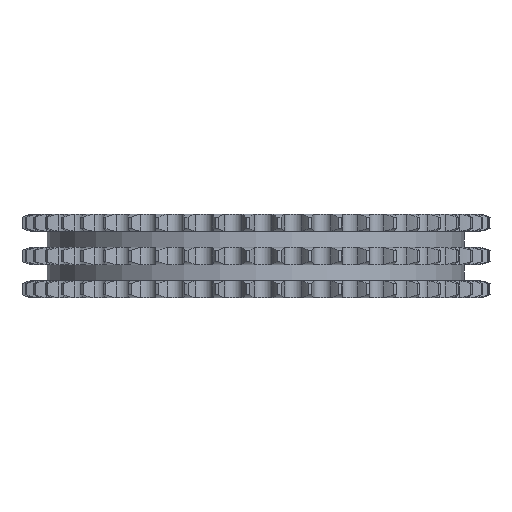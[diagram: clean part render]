
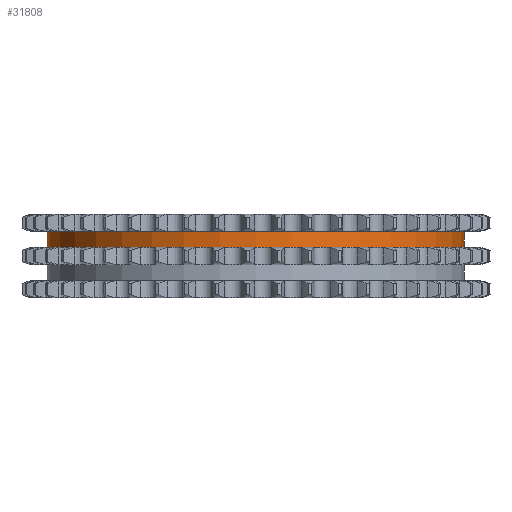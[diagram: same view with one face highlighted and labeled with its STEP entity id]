
A CAD part, left-side view. The second image highlights one B-rep face of the part: STEP entity #31808.
In plain terms, the highlighted cylindrical face has radius 87.07 mm (diameter 174.141 mm), a partial arc.
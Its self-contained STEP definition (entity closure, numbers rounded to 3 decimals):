
#6009=DIRECTION('',(0.,0.,-1.));
#6010=VECTOR('',#6009,6.65);
#6011=CARTESIAN_POINT('',(0.,87.07,10.25));
#6012=LINE('',#6011,#6010);
#6016=CARTESIAN_POINT('',(0.,0.,10.25));
#6017=DIRECTION('',(0.,0.,1.));
#6018=DIRECTION('',(0.,1.,0.));
#6019=AXIS2_PLACEMENT_3D('',#6016,#6017,#6018);
#6024=DIRECTION('',(0.,0.,-1.));
#6025=VECTOR('',#6024,6.65);
#6026=CARTESIAN_POINT('',(0.,-87.07,10.25));
#6027=LINE('',#6026,#6025);
#6031=CARTESIAN_POINT('',(0.,0.,3.6));
#6032=DIRECTION('',(0.,0.,1.));
#6033=DIRECTION('',(0.,1.,0.));
#6034=AXIS2_PLACEMENT_3D('',#6031,#6032,#6033);
#25248=CARTESIAN_POINT('',(0.,87.07,10.25));
#25249=CARTESIAN_POINT('',(0.,87.07,3.6));
#25250=VERTEX_POINT('',#25248);
#25251=VERTEX_POINT('',#25249);
#25252=CARTESIAN_POINT('',(0.,-87.07,10.25));
#25253=CARTESIAN_POINT('',(0.,-87.07,3.6));
#25254=VERTEX_POINT('',#25252);
#25255=VERTEX_POINT('',#25253);
#31796=CARTESIAN_POINT('',(0.,0.,11.275));
#31797=DIRECTION('',(0.,0.,-1.));
#31798=DIRECTION('',(0.,-1.,0.));
#31799=AXIS2_PLACEMENT_3D('',#31796,#31797,#31798);
#31800=CYLINDRICAL_SURFACE('',#31799,87.07);
#31801=ORIENTED_EDGE('',*,*,#31786,.F.);
#31802=ORIENTED_EDGE('',*,*,#31776,.T.);
#31803=ORIENTED_EDGE('',*,*,#31790,.T.);
#31805=ORIENTED_EDGE('',*,*,#31804,.F.);
#31806=EDGE_LOOP('',(#31801,#31802,#31803,#31805));
#31807=FACE_OUTER_BOUND('',#31806,.F.);
#31808=ADVANCED_FACE('',(#31807),#31800,.T.);
#6020=CIRCLE('',#6019,87.07);
#6035=CIRCLE('',#6034,87.07);
#31776=EDGE_CURVE('',#25250,#25254,#6020,.T.);
#31786=EDGE_CURVE('',#25250,#25251,#6012,.T.);
#31790=EDGE_CURVE('',#25254,#25255,#6027,.T.);
#31804=EDGE_CURVE('',#25251,#25255,#6035,.T.);
